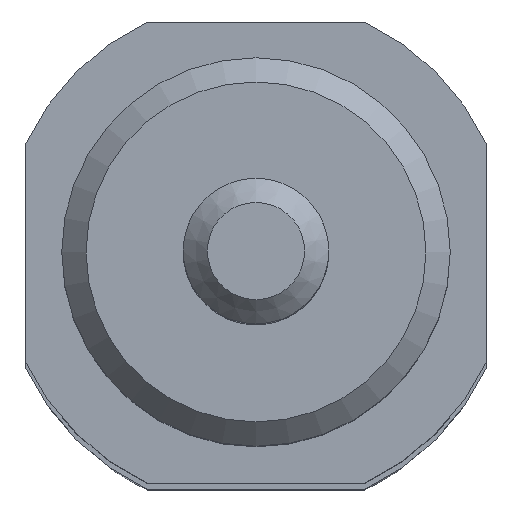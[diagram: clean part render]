
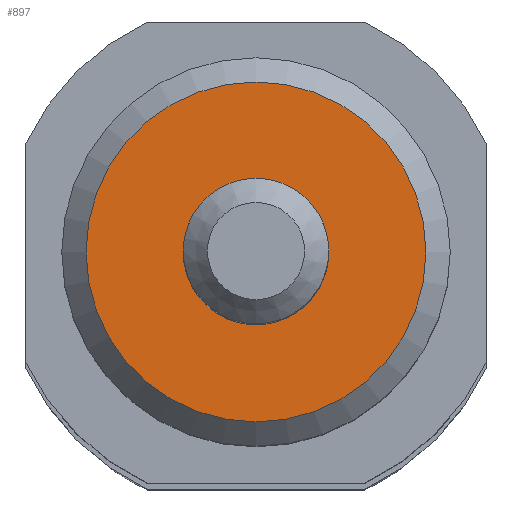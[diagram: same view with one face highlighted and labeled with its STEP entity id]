
A CAD part, top view. The second image highlights one B-rep face of the part: STEP entity #897.
In plain terms, the highlighted planar face has unit normal (0, 0, 1).
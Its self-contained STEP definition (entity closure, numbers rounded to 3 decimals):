
#835=CARTESIAN_POINT('',(7.,0.,190.));
#836=VERTEX_POINT('',#835);
#837=CARTESIAN_POINT('',(0.,0.,190.));
#838=DIRECTION('',(0.0,0.0,-1.0));
#839=DIRECTION('',(-1.0,0.0,0.0));
#840=AXIS2_PLACEMENT_3D('',#837,#838,#839);
#841=CIRCLE('',#840,7.);
#842=EDGE_CURVE('',#836,#836,#841,.T.);
#878=CARTESIAN_POINT('',(0.,0.,190.));
#879=DIRECTION('',(0.0,0.0,-1.0));
#880=DIRECTION('',(-1.0,0.0,0.0));
#881=AXIS2_PLACEMENT_3D('',#878,#879,#880);
#882=PLANE('',#881);
#883=ORIENTED_EDGE('',*,*,#842,.F.);
#884=EDGE_LOOP('',(#883));
#885=FACE_OUTER_BOUND('',#884,.T.);
#886=CARTESIAN_POINT('',(3.,0.,190.));
#887=VERTEX_POINT('',#886);
#888=CARTESIAN_POINT('',(0.,0.,190.));
#889=DIRECTION('',(0.0,0.0,-1.0));
#890=DIRECTION('',(-1.0,0.0,0.0));
#891=AXIS2_PLACEMENT_3D('',#888,#889,#890);
#892=CIRCLE('',#891,3.);
#893=EDGE_CURVE('',#887,#887,#892,.T.);
#894=ORIENTED_EDGE('',*,*,#893,.T.);
#895=EDGE_LOOP('',(#894));
#896=FACE_BOUND('',#895,.T.);
#897=ADVANCED_FACE('',(#885,#896),#882,.F.);
